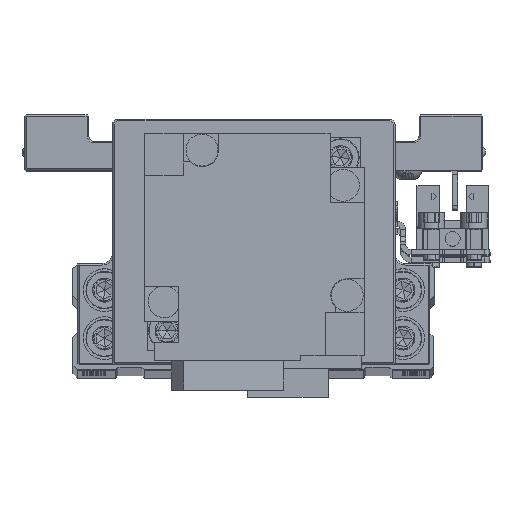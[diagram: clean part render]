
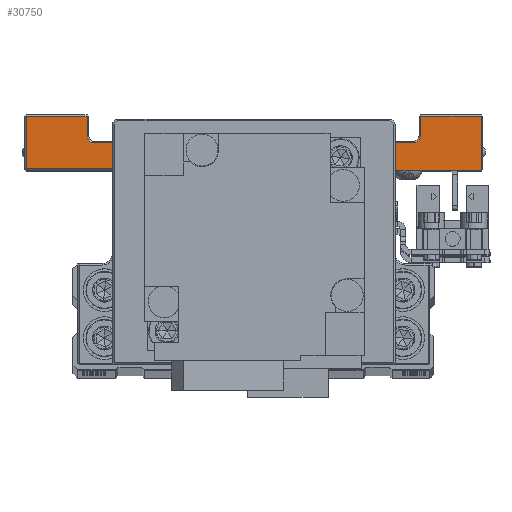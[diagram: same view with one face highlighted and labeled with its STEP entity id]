
A CAD part, top view. The second image highlights one B-rep face of the part: STEP entity #30750.
In plain terms, the highlighted planar face has unit normal (0, 0, 1) as drawn and (1, 0, 0) by its records, which use the part's own axes.
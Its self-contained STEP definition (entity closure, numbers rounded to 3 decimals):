
#349 = CARTESIAN_POINT ( 'NONE',  ( 45., 7.5, -20. ) ) ;
#495 = DIRECTION ( 'NONE',  ( 0., 1., 0. ) ) ;
#707 = ORIENTED_EDGE ( 'NONE', *, *, #26166, .T. ) ;
#1472 = DIRECTION ( 'NONE',  ( 0., 0., 1. ) ) ;
#1613 = ORIENTED_EDGE ( 'NONE', *, *, #2924, .T. ) ;
#2363 = AXIS2_PLACEMENT_3D ( 'NONE', #29576, #2712, #14675 ) ;
#2505 = AXIS2_PLACEMENT_3D ( 'NONE', #16352, #28340, #1472 ) ;
#2552 = CARTESIAN_POINT ( 'NONE',  ( 45., 17.7, -42.7 ) ) ;
#2569 = LINE ( 'NONE', #14531, #14240 ) ;
#2712 = DIRECTION ( 'NONE',  ( -1., 0., 0. ) ) ;
#2924 = EDGE_CURVE ( 'NONE', #36945, #18422, #21724, .T. ) ;
#2934 = ORIENTED_EDGE ( 'NONE', *, *, #12308, .T. ) ;
#3778 = DIRECTION ( 'NONE',  ( 0., -1., 0. ) ) ;
#4135 = ORIENTED_EDGE ( 'NONE', *, *, #14380, .T. ) ;
#4296 = DIRECTION ( 'NONE',  ( 0., -1., 0. ) ) ;
#4538 = ORIENTED_EDGE ( 'NONE', *, *, #22575, .T. ) ;
#4805 = VECTOR ( 'NONE', #495, 1000. ) ;
#4860 = VECTOR ( 'NONE', #31120, 1000. ) ;
#5031 = CARTESIAN_POINT ( 'NONE',  ( 45., -8.2, -20. ) ) ;
#5904 = VECTOR ( 'NONE', #23354, 1000. ) ;
#6327 = EDGE_CURVE ( 'NONE', #8630, #14856, #38201, .T. ) ;
#6409 = ORIENTED_EDGE ( 'NONE', *, *, #33764, .T. ) ;
#6815 = DIRECTION ( 'NONE',  ( 0., 0., -1. ) ) ;
#6827 = DIRECTION ( 'NONE',  ( 0., 0., 1. ) ) ;
#7200 = LINE ( 'NONE', #19169, #4860 ) ;
#7236 = CARTESIAN_POINT ( 'NONE',  ( 45., 14., 31.3 ) ) ;
#7312 = EDGE_CURVE ( 'NONE', #14856, #12302, #18697, .T. ) ;
#7537 = VERTEX_POINT ( 'NONE', #38206 ) ;
#8179 = EDGE_CURVE ( 'NONE', #19127, #33632, #21736, .T. ) ;
#8212 = EDGE_CURVE ( 'NONE', #18422, #36519, #9971, .T. ) ;
#8270 = VECTOR ( 'NONE', #4296, 1000. ) ;
#8583 = ORIENTED_EDGE ( 'NONE', *, *, #8179, .T. ) ;
#8630 = VERTEX_POINT ( 'NONE', #28295 ) ;
#8697 = ORIENTED_EDGE ( 'NONE', *, *, #19266, .T. ) ;
#9395 = CARTESIAN_POINT ( 'NONE',  ( 45., 12.7, -30. ) ) ;
#9713 = EDGE_CURVE ( 'NONE', #12302, #32201, #31901, .T. ) ;
#9763 = EDGE_LOOP ( 'NONE', ( #35599, #1613, #26954, #2934, #8697, #707, #4135, #4538, #15304, #8583, #6409, #37960, #17297, #33457 ) ) ;
#9767 = LINE ( 'NONE', #21727, #20335 ) ;
#9971 = LINE ( 'NONE', #21929, #28715 ) ;
#11376 = CARTESIAN_POINT ( 'NONE',  ( 45., 7.8, 20. ) ) ;
#11465 = LINE ( 'NONE', #23431, #24683 ) ;
#11744 = VECTOR ( 'NONE', #3778, 1000. ) ;
#12301 = DIRECTION ( 'NONE',  ( -1., 0., 0. ) ) ;
#12302 = VERTEX_POINT ( 'NONE', #32380 ) ;
#12308 = EDGE_CURVE ( 'NONE', #36519, #7537, #2569, .T. ) ;
#13670 = VECTOR ( 'NONE', #6827, 1000. ) ;
#14240 = VECTOR ( 'NONE', #26511, 1000. ) ;
#14380 = EDGE_CURVE ( 'NONE', #16294, #34093, #11465, .T. ) ;
#14531 = CARTESIAN_POINT ( 'NONE',  ( 45., 17.7, -20. ) ) ;
#14675 = DIRECTION ( 'NONE',  ( 0., 0., 1. ) ) ;
#14856 = VERTEX_POINT ( 'NONE', #22934 ) ;
#15242 = FACE_OUTER_BOUND ( 'NONE', #9763, .T. ) ;
#15304 = ORIENTED_EDGE ( 'NONE', *, *, #32839, .T. ) ;
#15388 = LINE ( 'NONE', #27358, #4805 ) ;
#16100 = VERTEX_POINT ( 'NONE', #22939 ) ;
#16294 = VERTEX_POINT ( 'NONE', #9395 ) ;
#16352 = CARTESIAN_POINT ( 'NONE',  ( 45., 14., -30. ) ) ;
#16417 = VERTEX_POINT ( 'NONE', #7236 ) ;
#16983 = DIRECTION ( 'NONE',  ( 0., 0., -1. ) ) ;
#17297 = ORIENTED_EDGE ( 'NONE', *, *, #7312, .T. ) ;
#18422 = VERTEX_POINT ( 'NONE', #30303 ) ;
#18697 = LINE ( 'NONE', #30657, #11744 ) ;
#19127 = VERTEX_POINT ( 'NONE', #36233 ) ;
#19169 = CARTESIAN_POINT ( 'NONE',  ( 45., 7.5, 42.7 ) ) ;
#19266 = EDGE_CURVE ( 'NONE', #7537, #16100, #22145, .T. ) ;
#19295 = CIRCLE ( 'NONE', #2363, 1.3 ) ;
#19430 = CIRCLE ( 'NONE', #2505, 1.3 ) ;
#19724 = AXIS2_PLACEMENT_3D ( 'NONE', #349, #12301, #24269 ) ;
#20335 = VECTOR ( 'NONE', #33667, 1000. ) ;
#21139 = CARTESIAN_POINT ( 'NONE',  ( 45., 17.7, 42.7 ) ) ;
#21724 = LINE ( 'NONE', #33664, #26518 ) ;
#21727 = CARTESIAN_POINT ( 'NONE',  ( 45., 7.5, -19.7 ) ) ;
#21736 = LINE ( 'NONE', #33677, #13670 ) ;
#21929 = CARTESIAN_POINT ( 'NONE',  ( 45., 7.5, -42.7 ) ) ;
#22145 = LINE ( 'NONE', #31159, #8270 ) ;
#22575 = EDGE_CURVE ( 'NONE', #34093, #16417, #19295, .T. ) ;
#22934 = CARTESIAN_POINT ( 'NONE',  ( 45., 7.8, 19.7 ) ) ;
#22939 = CARTESIAN_POINT ( 'NONE',  ( 45., 14., -31.3 ) ) ;
#23354 = DIRECTION ( 'NONE',  ( 0., 0., -1. ) ) ;
#23431 = CARTESIAN_POINT ( 'NONE',  ( 45., 12.7, 30. ) ) ;
#23487 = CARTESIAN_POINT ( 'NONE',  ( 45., -8.2, -19.7 ) ) ;
#24235 = CARTESIAN_POINT ( 'NONE',  ( 45., 12.7, 30. ) ) ;
#24269 = DIRECTION ( 'NONE',  ( 0., 0., 1. ) ) ;
#24683 = VECTOR ( 'NONE', #35357, 1000. ) ;
#26166 = EDGE_CURVE ( 'NONE', #16100, #16294, #19430, .T. ) ;
#26511 = DIRECTION ( 'NONE',  ( 0., 0., 1. ) ) ;
#26518 = VECTOR ( 'NONE', #6815, 1000. ) ;
#26954 = ORIENTED_EDGE ( 'NONE', *, *, #8212, .T. ) ;
#27215 = PLANE ( 'NONE',  #19724 ) ;
#27358 = CARTESIAN_POINT ( 'NONE',  ( 45., 7.5, 31.3 ) ) ;
#28295 = CARTESIAN_POINT ( 'NONE',  ( 45., 7.8, 42.7 ) ) ;
#28340 = DIRECTION ( 'NONE',  ( -1., 0., 0. ) ) ;
#28715 = VECTOR ( 'NONE', #33863, 1000. ) ;
#29576 = CARTESIAN_POINT ( 'NONE',  ( 45., 14., 30. ) ) ;
#30303 = CARTESIAN_POINT ( 'NONE',  ( 45., 7.5, -42.7 ) ) ;
#30657 = CARTESIAN_POINT ( 'NONE',  ( 45., 7.5, 19.7 ) ) ;
#30750 = ADVANCED_FACE ( 'NONE', ( #15242 ), #27215, .F. ) ;
#31120 = DIRECTION ( 'NONE',  ( 0., -1., 0. ) ) ;
#31159 = CARTESIAN_POINT ( 'NONE',  ( 45., 7.5, -31.3 ) ) ;
#31901 = LINE ( 'NONE', #5031, #32322 ) ;
#32201 = VERTEX_POINT ( 'NONE', #23487 ) ;
#32322 = VECTOR ( 'NONE', #16983, 1000. ) ;
#32380 = CARTESIAN_POINT ( 'NONE',  ( 45., -8.2, 19.7 ) ) ;
#32839 = EDGE_CURVE ( 'NONE', #16417, #19127, #15388, .T. ) ;
#33457 = ORIENTED_EDGE ( 'NONE', *, *, #9713, .T. ) ;
#33632 = VERTEX_POINT ( 'NONE', #21139 ) ;
#33664 = CARTESIAN_POINT ( 'NONE',  ( 45., 7.5, 43. ) ) ;
#33667 = DIRECTION ( 'NONE',  ( 0., 1., 0. ) ) ;
#33677 = CARTESIAN_POINT ( 'NONE',  ( 45., 17.7, -20. ) ) ;
#33764 = EDGE_CURVE ( 'NONE', #33632, #8630, #7200, .T. ) ;
#33863 = DIRECTION ( 'NONE',  ( 0., 1., 0. ) ) ;
#34093 = VERTEX_POINT ( 'NONE', #24235 ) ;
#35357 = DIRECTION ( 'NONE',  ( 0., 0., 1. ) ) ;
#35599 = ORIENTED_EDGE ( 'NONE', *, *, #37174, .T. ) ;
#36233 = CARTESIAN_POINT ( 'NONE',  ( 45., 17.7, 31.3 ) ) ;
#36519 = VERTEX_POINT ( 'NONE', #2552 ) ;
#36945 = VERTEX_POINT ( 'NONE', #37961 ) ;
#37174 = EDGE_CURVE ( 'NONE', #32201, #36945, #9767, .T. ) ;
#37960 = ORIENTED_EDGE ( 'NONE', *, *, #6327, .T. ) ;
#37961 = CARTESIAN_POINT ( 'NONE',  ( 45., 7.5, -19.7 ) ) ;
#38201 = LINE ( 'NONE', #11376, #5904 ) ;
#38206 = CARTESIAN_POINT ( 'NONE',  ( 45., 17.7, -31.3 ) ) ;
